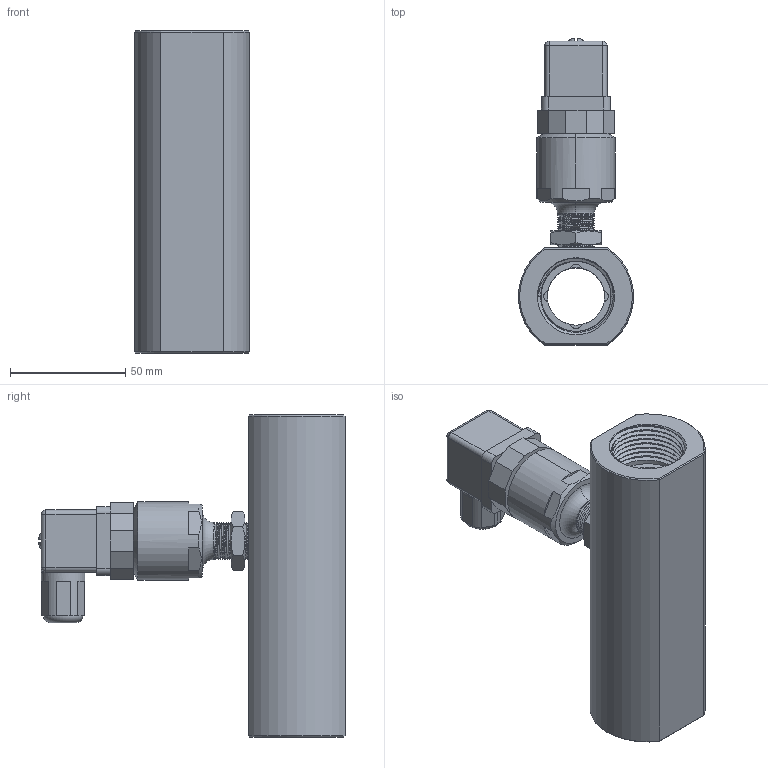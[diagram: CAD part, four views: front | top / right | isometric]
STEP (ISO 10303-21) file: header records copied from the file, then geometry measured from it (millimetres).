
FILE_DESCRIPTION( (''), '2;1');
FILE_NAME( 'QTKB_DN25_female-thread.step', '2023-10-19T11:52:13+08:00', (''), (''), '', '', '');
FILE_SCHEMA (('AUTOMOTIVE_DESIGN { 1 0 10303 214 3 1 1 1 }'));
Length unit declared in the file: millimetre
Products named in the file (1): QTKB DN25_female-thread
Bounding box: 50 x 133 x 140 mm (x, y, z)
Volume: 239283.1 mm3; surface area: 58874.1 mm2
Topology: 5 solids, 6 shells, 411 faces, 1104 edges, 723 vertices
Faces by surface type: plane 268, cylinder 77, cone 34, bspline 24, torus 4, sphere 4
Full cylindrical faces by diameter (mm): 16.5 x1, 25 x1, 28 x2
Entity records: 22033 total; most frequent: CARTESIAN_POINT 11936, ORIENTED_EDGE 2176, DIRECTION 1931, EDGE_CURVE 1088, VERTEX_POINT 719, LINE 679, VECTOR 679, AXIS2_PLACEMENT_3D 626
